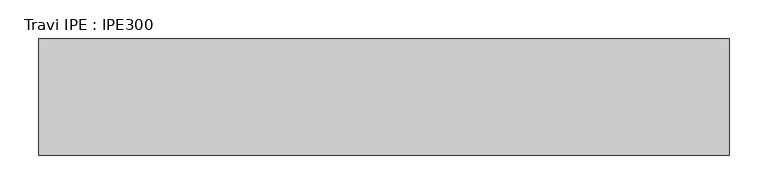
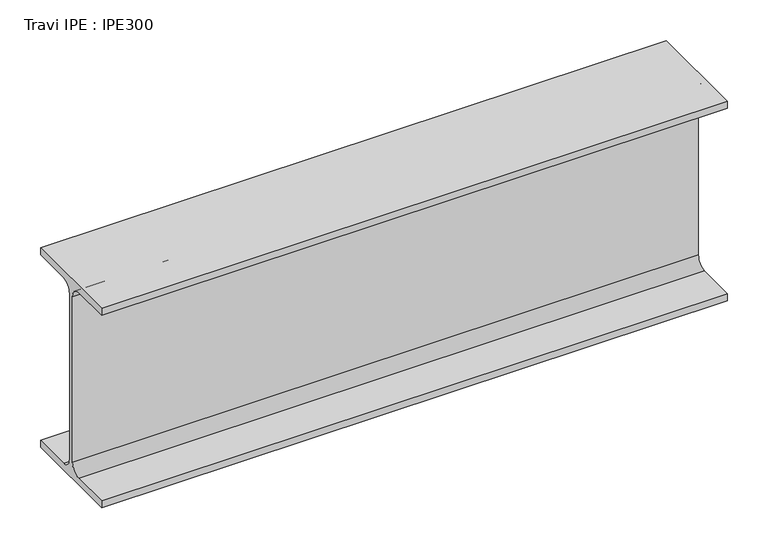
"""IFC4 building model written with IfcOpenShell, lengths in millimetres: beam geometry, Travi IPE : IPE300."""

from ifc_helpers import new_model, si_unit, point, frame, frame_2d, origin, place, context, project, spatial, polyline, circle_curve, trimmed, segment, composite_curve, outline, extrude, source, transform, mapped, element, save


def travi_ipe_ipe300_f944dd80(model_context):
    return source(origin(), model_context, "Body", "SweptSolid", [
        extrude(outline(composite_curve([segment(polyline([(75.0, -139.3), (75.0, -150.0), (-75.0, -150.0), (-75.0, -139.3), (-18.55, -139.3)]), True, "CONTINUOUS"), segment(trimmed(circle_curve(frame_2d((-18.55, -124.3)), 15.0), [point((-18.55, -139.3))], [point((-3.55, -124.3))], True, "CARTESIAN"), True, "CONTINUOUS"), segment(polyline([(-3.55, -124.3), (-3.55, 124.3)]), True, "CONTINUOUS"), segment(trimmed(circle_curve(frame_2d((-18.55, 124.3)), 15.0), [point((-3.55, 124.3))], [point((-18.55, 139.3))], True, "CARTESIAN"), True, "CONTINUOUS"), segment(polyline([(-18.55, 139.3), (-75.0, 139.3), (-75.0, 150.0), (75.0, 150.0), (75.0, 139.3), (18.55, 139.3)]), True, "CONTINUOUS"), segment(trimmed(circle_curve(frame_2d((18.55, 124.3)), 15.0), [point((18.55, 139.3))], [point((3.55, 124.3))], True, "CARTESIAN"), True, "CONTINUOUS"), segment(polyline([(3.55, 124.3), (3.55, -124.3)]), True, "CONTINUOUS"), segment(trimmed(circle_curve(frame_2d((18.55, -124.3)), 15.0), [point((3.55, -124.3))], [point((18.55, -139.3))], True, "CARTESIAN"), True, "CONTINUOUS"), segment(polyline([(18.55, -139.3), (75.0, -139.3)]), True, "CONTINUOUS")], self_intersect=False)), frame((-468.5, 0.0, 0.0), z_axis=(1.0, 0.0, 0.0), x_axis=(0.0, 1.0, 0.0)), (0.0, 0.0, 1.0), 890.0),
    ])


if __name__ == "__main__":
    model = new_model("IFC4")
    model_context = context("Model", 3, world=origin())
    ifc_project = project(units=[si_unit("LENGTHUNIT", "METRE", prefix="MILLI")], contexts=[model_context])
    site = spatial("IfcSite", under=ifc_project)
    building = spatial("IfcBuilding", under=site)
    placement = place(None, origin())
    travi_ipe_ipe300_shape = travi_ipe_ipe300_f944dd80(model_context)
    element("IfcBeam", 1, ObjectType="Travi IPE : IPE300", at=placement, inside=building, context=model_context, shape_type="MappedRepresentation", body=[
        mapped(travi_ipe_ipe300_shape, transform((0.0, 0.0, 0.0), x_axis=(1.0, 0.0, 0.0), y_axis=(0.0, 1.0, 0.0), z_axis=(0.0, 0.0, 1.0))),
    ])
    save(model, "model.ifc")
